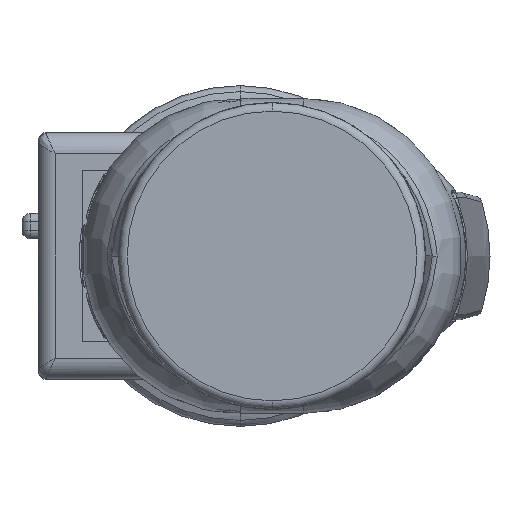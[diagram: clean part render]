
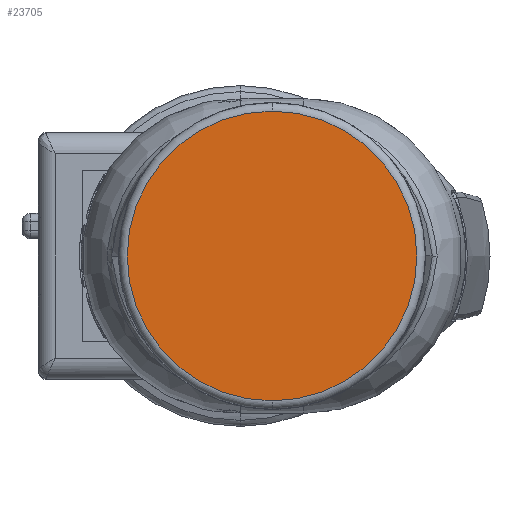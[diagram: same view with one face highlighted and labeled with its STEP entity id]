
A CAD part, left-side view. The second image highlights one B-rep face of the part: STEP entity #23705.
In plain terms, the highlighted planar face has unit normal (-1, 0, 0).
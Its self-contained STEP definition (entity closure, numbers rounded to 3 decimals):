
#1652 = AXIS2_PLACEMENT_3D ( 'NONE', #44854, #11059, #31543 ) ;
#7468 = CARTESIAN_POINT ( 'NONE',  ( -203., -3.75, 17. ) ) ;
#9242 = AXIS2_PLACEMENT_3D ( 'NONE', #43116, #52884, #57889 ) ;
#10832 = VERTEX_POINT ( 'NONE', #26296 ) ;
#11059 = DIRECTION ( 'NONE',  ( -1., 0., 0. ) ) ;
#11561 = EDGE_LOOP ( 'NONE', ( #14461, #40820 ) ) ;
#12252 = EDGE_CURVE ( 'NONE', #10832, #40925, #36400, .T. ) ;
#14461 = ORIENTED_EDGE ( 'NONE', *, *, #12252, .T. ) ;
#14691 = DIRECTION ( 'NONE',  ( 0., 0., -1. ) ) ;
#19136 = DIRECTION ( 'NONE',  ( 1., 0., 0. ) ) ;
#21735 = CIRCLE ( 'NONE', #1652, 17. ) ;
#23705 = ADVANCED_FACE ( 'NONE', ( #36156 ), #62019, .F. ) ;
#26296 = CARTESIAN_POINT ( 'NONE',  ( -203., -3.75, -17. ) ) ;
#31543 = DIRECTION ( 'NONE',  ( 0., 0., -1. ) ) ;
#36156 = FACE_OUTER_BOUND ( 'NONE', #11561, .T. ) ;
#36400 = CIRCLE ( 'NONE', #9242, 17. ) ;
#40820 = ORIENTED_EDGE ( 'NONE', *, *, #51463, .T. ) ;
#40925 = VERTEX_POINT ( 'NONE', #7468 ) ;
#42058 = AXIS2_PLACEMENT_3D ( 'NONE', #47866, #19136, #14691 ) ;
#43116 = CARTESIAN_POINT ( 'NONE',  ( -203., -3.75, 0. ) ) ;
#44854 = CARTESIAN_POINT ( 'NONE',  ( -203., -3.75, 0. ) ) ;
#47866 = CARTESIAN_POINT ( 'NONE',  ( -203., -3.75, 0. ) ) ;
#51463 = EDGE_CURVE ( 'NONE', #40925, #10832, #21735, .T. ) ;
#52884 = DIRECTION ( 'NONE',  ( -1., 0., 0. ) ) ;
#57889 = DIRECTION ( 'NONE',  ( 0., 0., -1. ) ) ;
#62019 = PLANE ( 'NONE',  #42058 ) ;
